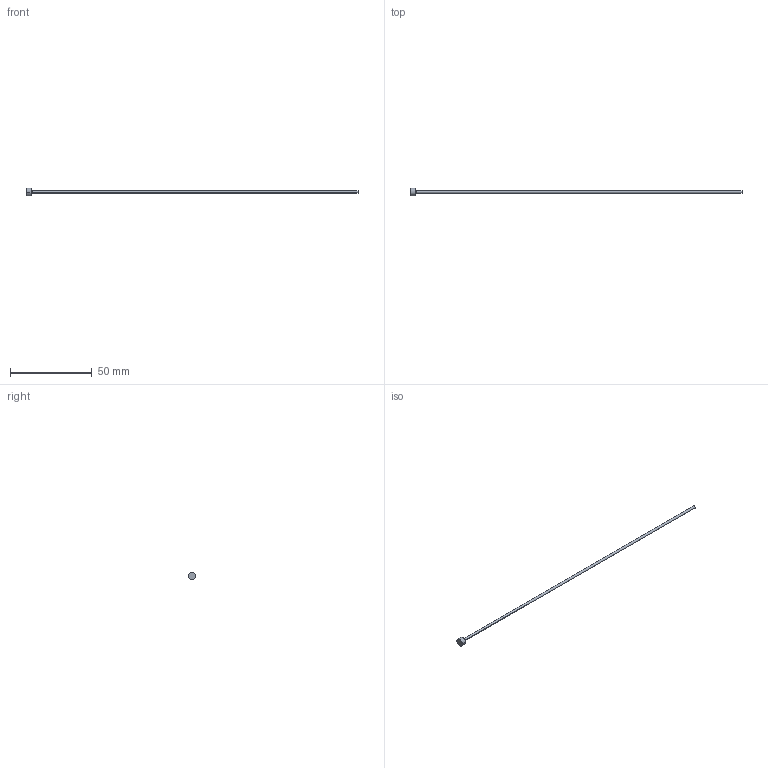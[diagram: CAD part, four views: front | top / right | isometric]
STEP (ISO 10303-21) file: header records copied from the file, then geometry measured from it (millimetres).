
FILE_DESCRIPTION (( 'STEP AP214' ), '1' );
FILE_NAME ('P5-8.STEP', '2020-03-11T16:12:26', ( '' ), ( '' ), 'SwSTEP 2.0', 'SolidWorks 2018', '' );
FILE_SCHEMA (( 'AUTOMOTIVE_DESIGN' ));
Length unit declared in the file: inch
Products named in the file (1): P5-8
Bounding box: 203.2 x 4.76 x 4.76 mm (x, y, z)
Volume: 449.3 mm3; surface area: 1072.8 mm2
Topology: 1 solids, 1 shells, 13 faces, 24 edges, 14 vertices
Faces by surface type: cone 4, cylinder 4, plane 3, torus 2
Entity records: 366 total; most frequent: DIRECTION 68, CARTESIAN_POINT 52, ORIENTED_EDGE 48, AXIS2_PLACEMENT_3D 30, EDGE_CURVE 24, CIRCLE 16, EDGE_LOOP 14, VERTEX_POINT 14
